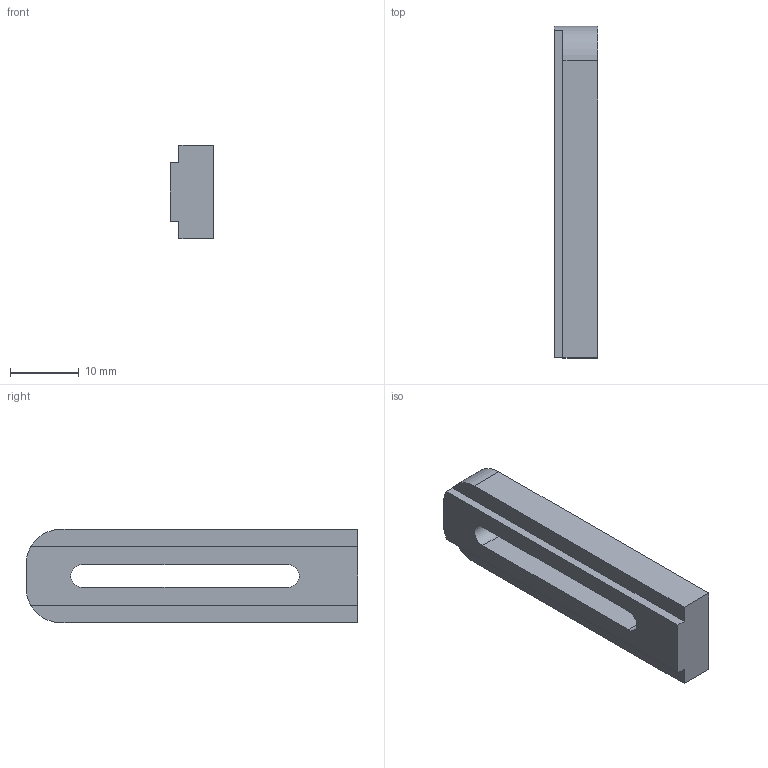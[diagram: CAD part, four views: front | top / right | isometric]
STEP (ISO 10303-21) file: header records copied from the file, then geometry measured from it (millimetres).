
FILE_DESCRIPTION(/* description */ ('Alibre Inc.'),/* implementation_level */ '2;1');
FILE_NAME(/* name */ 'export-8A1D692F-A2DA-4ECF-8F00-7CE0DFB20450',/* time_stamp */ '2020-05-17T00:15:19-07:00',/* author */ (''),/* organization */ (''),/* preprocessor_version */ 'ST-DEVELOPER v17',/* originating_system */ 'Alibre',/* authorisation */ '');
FILE_SCHEMA (('AUTOMOTIVE_DESIGN'));
Length unit declared in the file: millimetre
Bounding box: 6.35 x 48.26 x 13.59 mm (x, y, z)
Volume: 3112.5 mm3; surface area: 2269.9 mm2
Topology: 1 solids, 1 shells, 16 faces, 42 edges, 28 vertices
Faces by surface type: plane 12, cylinder 4
Entity records: 503 total; most frequent: CARTESIAN_POINT 86, ORIENTED_EDGE 84, DIRECTION 72, EDGE_CURVE 42, VECTOR 32, LINE 32, VERTEX_POINT 28, AXIS2_PLACEMENT_3D 26
